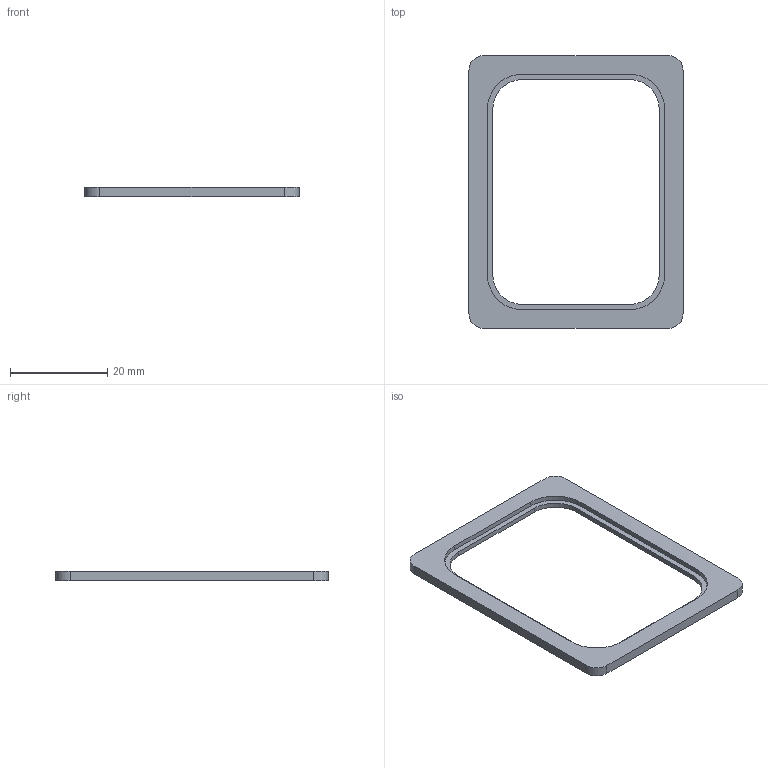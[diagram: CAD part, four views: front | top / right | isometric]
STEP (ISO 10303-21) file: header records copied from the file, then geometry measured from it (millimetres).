
FILE_DESCRIPTION(('Open CASCADE Model'),'2;1');
FILE_NAME('Open CASCADE Shape Model','2026-11-09T21:30:06',('Author'),( 'Open CASCADE'),'Open CASCADE STEP processor 8.0','Open CASCADE 8.0' ,'Unknown');
FILE_SCHEMA(('AUTOMOTIVE_DESIGN { 1 0 10303 214 1 1 1 1 }'));
Length unit declared in the file: millimetre
Products named in the file (1): Open CASCADE STEP translator 8.0 12
Bounding box: 44 x 56 x 2 mm (x, y, z)
Volume: 1647.2 mm3; surface area: 2513.6 mm2
Topology: 1 solids, 1 shells, 27 faces, 72 edges, 48 vertices
Faces by surface type: plane 15, cylinder 12
Entity records: 1812 total; most frequent: CARTESIAN_POINT 388, DIRECTION 260, ORIENTED_EDGE 144, LINE 144, VECTOR 144, PCURVE 144, DEFINITIONAL_REPRESENTATION 144, EDGE_CURVE 72
